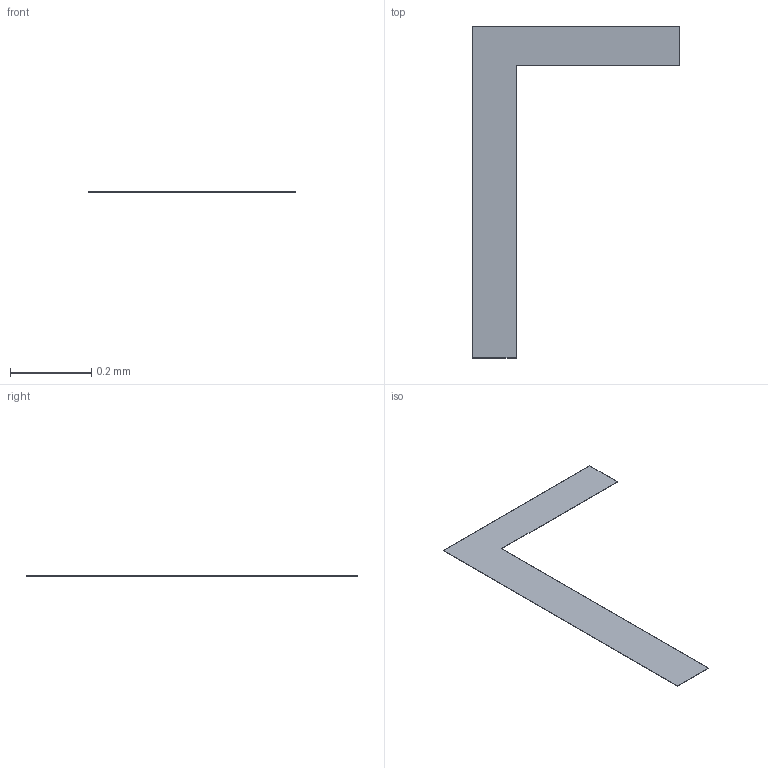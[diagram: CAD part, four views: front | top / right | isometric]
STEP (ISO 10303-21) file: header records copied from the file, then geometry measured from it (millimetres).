
FILE_DESCRIPTION(/* description */ ('STEP AP242 Edition 2','CAx-IF Rec.Pracs.---Representation and Presentation of Product Manufacturing Information (PMI)---4.0---2014-10-13','CAx-IF Rec.Pracs.---3D Tessellated Geometry---0.4---2014-09-14','2;1','CAx-IF Rec.Pracs.---User Defined Attributes---1.5---2016-08-15'),/* implementation_level */ '2;1');
FILE_NAME(/* name */ 'Drone Layout - Surface 349',/* time_stamp */ '2026-10-04T22:22:57Z',/* author */ (''),/* organization */ (''),/* preprocessor_version */ 'ST-DEVELOPER v20',/* originating_system */ 'ONSHAPE BY PTC INC, 1.221',/* authorisation */ ' ');
FILE_SCHEMA (('AP242_MANAGED_MODEL_BASED_3D_ENGINEERING_MIM_LF { 1 0 10303 442 3 1 4 }'));
Length unit declared in the file: metre
Products named in the file (1): VL53L0X:1__Body25
Bounding box: 0.51 x 0.82 x 0 mm (x, y, z)
Volume: 0 mm3; surface area: 0.3 mm2
Topology: 1 solids, 1 shells, 8 faces, 18 edges, 12 vertices
Faces by surface type: plane 8
Entity records: 235 total; most frequent: CARTESIAN_POINT 39, ORIENTED_EDGE 36, DIRECTION 36, EDGE_CURVE 18, LINE 18, VECTOR 18, VERTEX_POINT 12, AXIS2_PLACEMENT_3D 9
